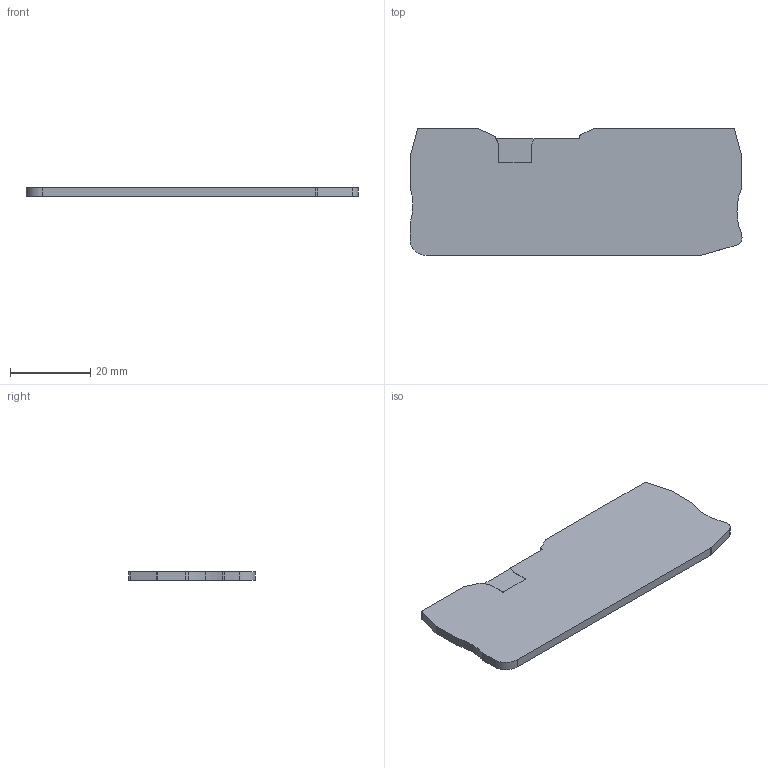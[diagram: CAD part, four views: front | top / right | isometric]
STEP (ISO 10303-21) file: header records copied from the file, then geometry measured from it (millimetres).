
FILE_DESCRIPTION(('OneSpaceDesigner STEP Export'),'2;1');
FILE_NAME('3206571_d_qtc25_twin_select.stp','2005-03-03T13:26:32',(''),(''),'OneSpace Designer STEP processor (Jan. 2003) for AP203(Solid Model)','OneSpace Designer 12.01C 26-Mar-2004 (C) CoCreate Software GmbH','');
FILE_SCHEMA(('CONFIG_CONTROL_DESIGN'));
Length unit declared in the file: millimetre
Products named in the file (2): 3206571_d_qtc25_twin_select
Assembly tree (1 placements, depth 2):
  3206571_d_qtc25_twin_select
    3206571_d_qtc25_twin_select
Bounding box: 82.5 x 31.55 x 2.2 mm (x, y, z)
Volume: 5472.4 mm3; surface area: 5485.6 mm2
Topology: 1 solids, 1 shells, 51 faces, 147 edges, 98 vertices
Faces by surface type: plane 27, cylinder 24
Entity records: 1831 total; most frequent: ORIENTED_EDGE 294, CARTESIAN_POINT 281, DIRECTION 272, EDGE_CURVE 147, VERTEX_POINT 98, VECTOR 94, LINE 94, AXIS2_PLACEMENT_3D 89
